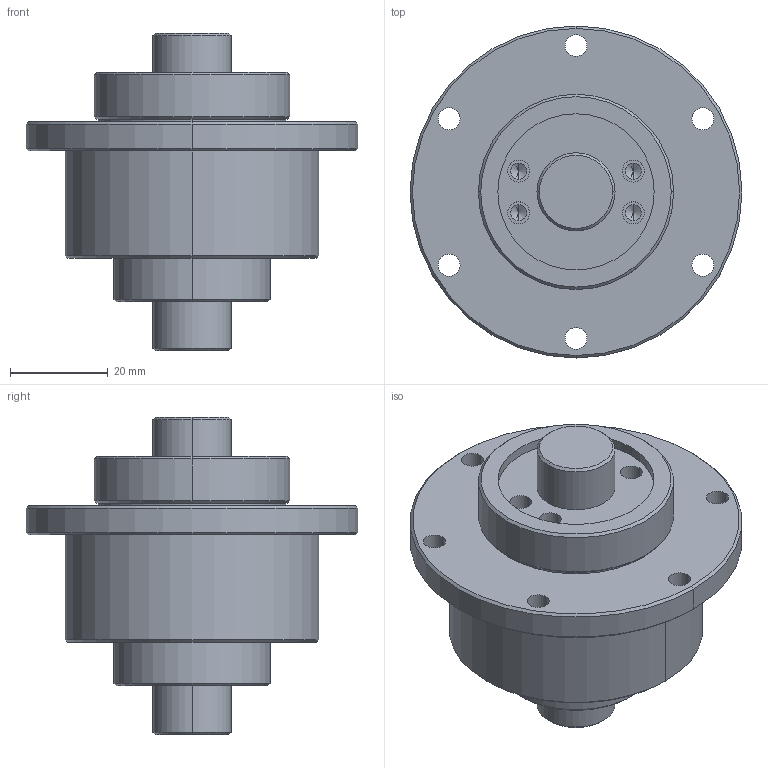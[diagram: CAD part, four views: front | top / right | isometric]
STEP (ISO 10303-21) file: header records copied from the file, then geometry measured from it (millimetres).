
FILE_DESCRIPTION (( 'STEP AP203' ), '1' );
FILE_NAME ('RFBY1616.STEP', '2014-11-13T09:01:54', ( '' ), ( '' ), 'SwSTEP 2.0', 'SolidWorks 2014', '' );
FILE_SCHEMA (( 'CONFIG_CONTROL_DESIGN' ));
Length unit declared in the file: millimetre
Products named in the file (1): RFBY1616
Bounding box: 68 x 68 x 65 mm (x, y, z)
Volume: 89488.6 mm3; surface area: 22991.1 mm2
Topology: 3 solids, 3 shells, 84 faces, 186 edges, 112 vertices
Faces by surface type: cylinder 46, cone 24, plane 14
Entity records: 2395 total; most frequent: DIRECTION 456, CARTESIAN_POINT 375, ORIENTED_EDGE 356, AXIS2_PLACEMENT_3D 193, EDGE_CURVE 178, EDGE_LOOP 112, VERTEX_POINT 112, CIRCLE 108
